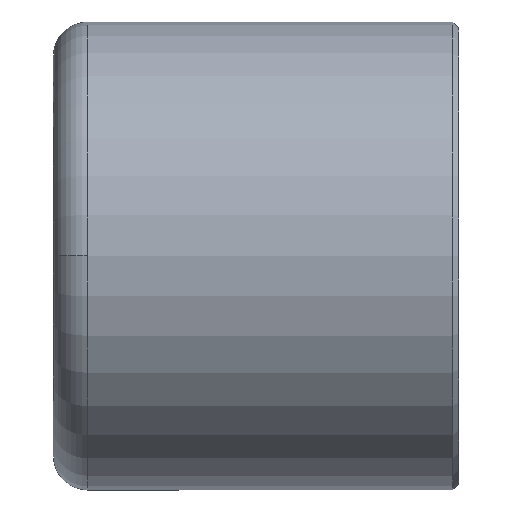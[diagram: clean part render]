
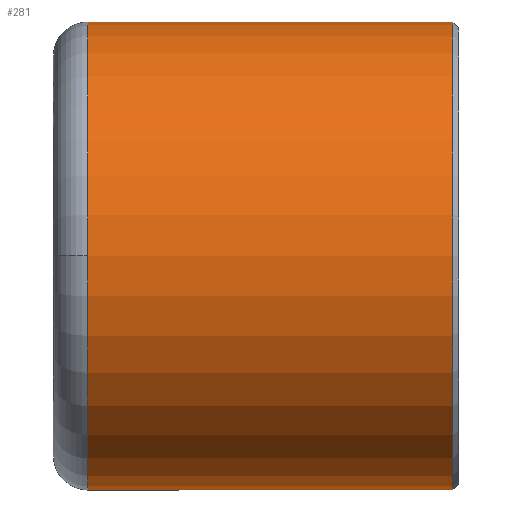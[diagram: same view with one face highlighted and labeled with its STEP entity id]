
A CAD part, top view. The second image highlights one B-rep face of the part: STEP entity #281.
In plain terms, the highlighted cylindrical face has radius 8.2 mm (diameter 16.4 mm), a partial arc.
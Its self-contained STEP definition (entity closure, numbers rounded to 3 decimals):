
#78=CARTESIAN_POINT('',(-6.25,0.,8.2));
#79=VERTEX_POINT('',#78);
#87=CARTESIAN_POINT('',(-6.25,8.2,0.0));
#88=VERTEX_POINT('',#87);
#89=CARTESIAN_POINT('',(-6.25,0.,0.0));
#90=DIRECTION('',(1.0,0.0,0.0));
#91=DIRECTION('',(0.0,1.0,0.0));
#92=AXIS2_PLACEMENT_3D('',#89,#90,#91);
#93=CIRCLE('',#92,8.2);
#94=EDGE_CURVE('',#88,#79,#93,.T.);
#241=CARTESIAN_POINT('',(0.25,0.,0.0));
#242=DIRECTION('',(1.0,0.,0.0));
#243=DIRECTION('',(0.0,1.0,0.0));
#244=AXIS2_PLACEMENT_3D('',#241,#242,#243);
#245=CYLINDRICAL_SURFACE('',#244,8.2);
#246=CARTESIAN_POINT('',(6.55,8.2,0.));
#247=VERTEX_POINT('',#246);
#248=CARTESIAN_POINT('',(-6.25,8.2,0.0));
#249=DIRECTION('',(1.0,0.0,0.0));
#250=VECTOR('',#249,12.8);
#251=LINE('',#248,#250);
#252=EDGE_CURVE('',#88,#247,#251,.T.);
#253=ORIENTED_EDGE('',*,*,#252,.F.);
#254=ORIENTED_EDGE('',*,*,#94,.T.);
#255=CARTESIAN_POINT('',(-6.25,-8.2,0.));
#256=VERTEX_POINT('',#255);
#257=CARTESIAN_POINT('',(-6.25,0.,0.0));
#258=DIRECTION('',(1.0,0.0,0.0));
#259=DIRECTION('',(0.0,1.0,0.0));
#260=AXIS2_PLACEMENT_3D('',#257,#258,#259);
#261=CIRCLE('',#260,8.2);
#262=EDGE_CURVE('',#79,#256,#261,.T.);
#263=ORIENTED_EDGE('',*,*,#262,.T.);
#264=CARTESIAN_POINT('',(6.55,-8.2,0.));
#265=VERTEX_POINT('',#264);
#266=CARTESIAN_POINT('',(6.55,-8.2,0.));
#267=DIRECTION('',(-1.0,0.0,0.0));
#268=VECTOR('',#267,12.8);
#269=LINE('',#266,#268);
#270=EDGE_CURVE('',#265,#256,#269,.T.);
#271=ORIENTED_EDGE('',*,*,#270,.F.);
#272=CARTESIAN_POINT('',(6.55,0.,0.0));
#273=DIRECTION('',(1.0,0.0,0.0));
#274=DIRECTION('',(0.0,1.0,0.0));
#275=AXIS2_PLACEMENT_3D('',#272,#273,#274);
#276=CIRCLE('',#275,8.2);
#277=EDGE_CURVE('',#247,#265,#276,.T.);
#278=ORIENTED_EDGE('',*,*,#277,.F.);
#279=EDGE_LOOP('',(#253,#254,#263,#271,#278));
#280=FACE_OUTER_BOUND('',#279,.T.);
#281=ADVANCED_FACE('',(#280),#245,.T.);
